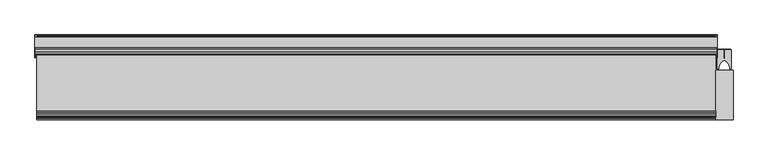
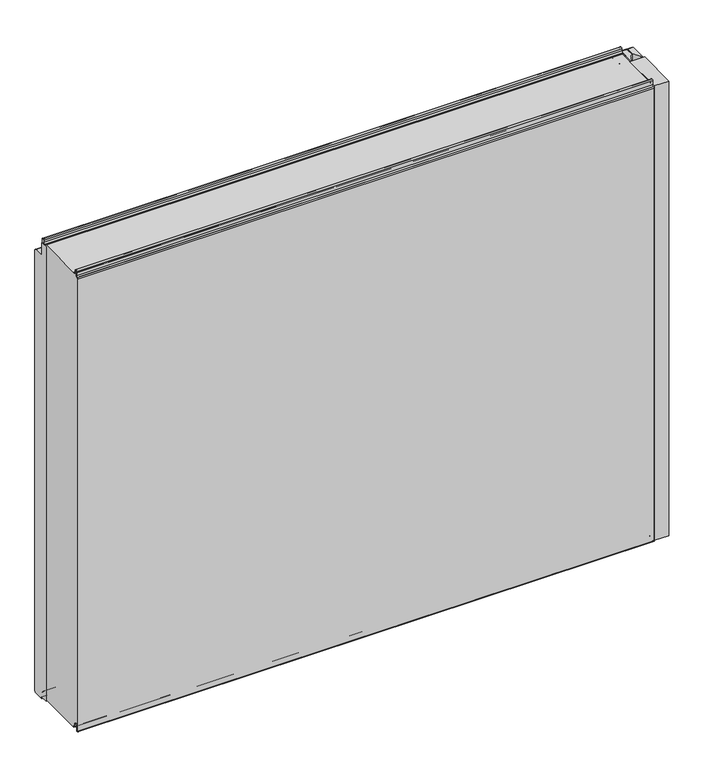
"""IFC4 building model written with IfcOpenShell, lengths in millimetres: plate geometry, Fronttop : Fronttop 150/1000."""

from ifc_helpers import new_model, si_unit, point, frame, frame_2d, origin, origin_with_axes, place, context, project, spatial, polyline, circle_curve, trimmed, segment, composite_curve, outline, extrude, source, transform, mapped, element, save
from ifc_brep_helpers import plane_surface, cylinder_surface, revolved_surface, advanced_brep


def plate_de1b0bd9(model_context):
    return source(origin(), model_context, "Body", "SolidModel", [
        advanced_brep(
        [(-601.5, 124.0, 1008.0), (-601.5, 121.0, 1008.0), (-601.5, 121.0, 1004.0), (-601.5, 117.0, 1000.0), (-601.5, 115.0, 1000.0), (-601.5, 115.0, 1001.0), (-601.5, 117.0, 1001.0), (-601.5, 120.0, 1004.0), (-601.5, 120.0, 1008.0), (-601.5, 125.0, 1008.0), (-601.5, 125.0, 1000.0), (-601.5, 124.0, 1000.0), (601.5, 125.0, 1008.0), (601.5, 120.0, 1008.0), (601.5, 120.0, 1004.0), (601.5, 117.0, 1001.0), (601.5, 115.0, 1001.0), (601.5, 115.0, 1000.0), (601.5, 117.0, 1000.0), (601.5, 121.0, 1004.0), (601.5, 121.0, 1008.0), (601.5, 124.0, 1008.0), (601.5, 124.0, 1000.0), (601.5, 125.0, 1000.0), (-601.5, 117.0, 2.0), (601.5, 117.0, 2.0), (601.5, 115.0, 2.0), (-601.5, 115.0, 2.0), (-601.5, 119.0, 4.0), (601.5, 119.0, 4.0), (-601.5, 119.0, 8.0), (601.5, 119.0, 8.0), (-601.5, 126.0, 8.0), (601.5, 126.0, 8.0), (-601.5, 126.0, 0.0), (601.5, 126.0, 0.0), (-601.5, 129.0, -3.0), (601.5, 129.0, -3.0), (-601.5, 125.0, -3.0), (-602.5, 125.0, -3.0), (-602.5, 147.0, -3.0), (-601.5, 147.0, -3.0), (601.5, 147.0, -3.0), (602.5, 147.0, -3.0), (602.5, 125.0, -3.0), (601.5, 125.0, -3.0), (-601.5, 150.0, 0.0), (601.5, 150.0, 0.0), (-602.5, 150.0, 0.0), (-602.5, 150.0, 969.0), (-601.5, 150.0, 969.0), (601.5, 150.0, 969.0), (602.5, 150.0, 969.0), (602.5, 150.0, 0.0), (-601.5, 147.0, 972.0), (601.5, 147.0, 972.0), (-602.5, 147.0, 972.0), (-602.5, 128.0, 972.0), (-601.5, 128.0, 972.0), (601.5, 128.0, 972.0), (602.5, 128.0, 972.0), (602.5, 147.0, 972.0), (-601.5, 125.0, 975.0), (601.5, 125.0, 975.0), (-602.5, 125.0, 975.0), (-602.5, 125.0, 1000.0), (602.5, 125.0, 1000.0), (602.5, 125.0, 975.0), (-601.5, 124.0, 975.0), (601.5, 124.0, 975.0), (-601.5, 128.0, 971.0), (601.5, 128.0, 971.0), (-601.5, 147.0, 971.0), (601.5, 147.0, 971.0), (-601.5, 149.0, 969.0), (601.5, 149.0, 969.0), (-601.5, 149.0, 0.0), (601.5, 149.0, 0.0), (-601.5, 147.0, -2.0), (601.5, 147.0, -2.0), (-601.5, 129.0, -2.0), (601.5, 129.0, -2.0), (-601.5, 127.0, 0.0), (601.5, 127.0, 0.0), (-601.5, 127.0, 8.0), (601.5, 127.0, 8.0), (-601.5, 118.0, 8.0), (601.5, 118.0, 8.0), (-601.5, 118.0, 4.0), (601.5, 118.0, 4.0), (-601.5, 117.0, 3.0), (601.5, 117.0, 3.0), (-601.5, 115.0, 3.0), (601.5, 115.0, 3.0), (602.5, 110.0, 1000.0), (602.5, 110.0, 0.0), (602.5, 125.0, 0.0), (601.5, 125.0, 0.0), (601.5, 110.0, 0.0), (601.5, 110.0, 1000.0), (-602.5, 125.0, 0.0), (-602.5, 110.0, 0.0), (-602.5, 110.0, 1000.0), (-601.5, 110.0, 1000.0), (-601.5, 110.0, 0.0), (-601.5, 125.0, 0.0)],
        [
            (0, 1, circle_curve(frame((-601.5, 122.5, 1008.0), z_axis=(1.0, 0.0, 0.0), x_axis=(0.0, -1.0, 0.0)), 1.5)),
            (1, 2),
            (2, 3, circle_curve(frame((-601.5, 117.0, 1004.0), z_axis=(-1.0, 0.0, 0.0), x_axis=(0.0, -1.0, 0.0)), 4.0)),
            (3, 4),
            (4, 5),
            (5, 6),
            (6, 7, circle_curve(frame((-601.5, 117.0, 1004.0), z_axis=(1.0, 0.0, 0.0), x_axis=(0.0, -1.0, 0.0)), 3.0)),
            (7, 8),
            (8, 9, circle_curve(frame((-601.5, 122.5, 1008.0), z_axis=(-1.0, 0.0, 0.0), x_axis=(0.0, -1.0, 0.0)), 2.5)),
            (9, 10),
            (10, 11),
            (11, 0),
            (12, 13, circle_curve(frame((601.5, 122.5, 1008.0), z_axis=(1.0, 0.0, 0.0), x_axis=(0.0, -1.0, 0.0)), 2.5)),
            (13, 14),
            (14, 15, circle_curve(frame((601.5, 117.0, 1004.0), z_axis=(-1.0, 0.0, 0.0), x_axis=(0.0, -1.0, 0.0)), 3.0)),
            (15, 16),
            (16, 17),
            (17, 18),
            (18, 19, circle_curve(frame((601.5, 117.0, 1004.0), z_axis=(1.0, 0.0, 0.0), x_axis=(0.0, -1.0, 0.0)), 4.0)),
            (19, 20),
            (20, 21, circle_curve(frame((601.5, 122.5, 1008.0), z_axis=(-1.0, 0.0, 0.0), x_axis=(0.0, -1.0, 0.0)), 1.5)),
            (21, 22),
            (22, 23),
            (23, 12),
            (24, 25),
            (25, 26),
            (26, 27),
            (27, 24),
            (24, 28, circle_curve(frame((-601.5, 117.0, 4.0), z_axis=(1.0, 0.0, 0.0), x_axis=(0.0, -1.0, 0.0)), 2.0)),
            (28, 29),
            (29, 25, circle_curve(frame((601.5, 117.0, 4.0), z_axis=(-1.0, 0.0, 0.0), x_axis=(0.0, -1.0, 0.0)), 2.0)),
            (28, 30),
            (30, 31),
            (31, 29),
            (30, 32, circle_curve(frame((-601.5, 122.5, 8.0), z_axis=(-1.0, 0.0, 0.0), x_axis=(0.0, -1.0, 0.0)), 3.5)),
            (32, 33),
            (33, 31, circle_curve(frame((601.5, 122.5, 8.0), z_axis=(1.0, 0.0, 0.0), x_axis=(0.0, -1.0, 0.0)), 3.5)),
            (32, 34),
            (34, 35),
            (35, 33),
            (34, 36, circle_curve(frame((-601.5, 129.0, 0.0), z_axis=(1.0, 0.0, 0.0), x_axis=(0.0, -1.0, 0.0)), 3.0)),
            (36, 37),
            (37, 35, circle_curve(frame((601.5, 129.0, 0.0), z_axis=(-1.0, 0.0, 0.0), x_axis=(0.0, -1.0, 0.0)), 3.0)),
            (36, 38),
            (38, 39),
            (39, 40),
            (40, 41),
            (41, 42),
            (42, 43),
            (43, 44),
            (44, 45),
            (45, 37),
            (41, 46, circle_curve(frame((-601.5, 147.0, 0.0), z_axis=(1.0, 0.0, 0.0), x_axis=(0.0, -1.0, 0.0)), 3.0)),
            (46, 47),
            (47, 42, circle_curve(frame((601.5, 147.0, 0.0), z_axis=(-1.0, 0.0, 0.0), x_axis=(0.0, -1.0, 0.0)), 3.0)),
            (46, 48),
            (48, 49),
            (49, 50),
            (50, 51),
            (51, 52),
            (52, 53),
            (53, 47),
            (50, 54, circle_curve(frame((-601.5, 147.0, 969.0), z_axis=(1.0, 0.0, 0.0), x_axis=(0.0, -1.0, 0.0)), 3.0)),
            (54, 55),
            (55, 51, circle_curve(frame((601.5, 147.0, 969.0), z_axis=(-1.0, 0.0, 0.0), x_axis=(0.0, -1.0, 0.0)), 3.0)),
            (54, 56),
            (56, 57),
            (57, 58),
            (58, 59),
            (59, 60),
            (60, 61),
            (61, 55),
            (58, 62, circle_curve(frame((-601.5, 128.0, 975.0), z_axis=(-1.0, 0.0, 0.0), x_axis=(0.0, -1.0, 0.0)), 3.0)),
            (62, 63),
            (63, 59, circle_curve(frame((601.5, 128.0, 975.0), z_axis=(1.0, 0.0, 0.0), x_axis=(0.0, -1.0, 0.0)), 3.0)),
            (62, 64),
            (64, 65),
            (65, 10),
            (9, 12),
            (23, 66),
            (66, 67),
            (67, 63),
            (8, 13),
            (7, 14),
            (6, 15),
            (5, 16),
            (4, 17),
            (4, 3),
            (3, 18),
            (18, 17),
            (2, 19),
            (1, 20),
            (0, 21),
            (11, 68),
            (68, 69),
            (69, 22),
            (68, 70, circle_curve(frame((-601.5, 128.0, 975.0), z_axis=(1.0, 0.0, 0.0), x_axis=(0.0, -1.0, 0.0)), 4.0)),
            (70, 71),
            (71, 69, circle_curve(frame((601.5, 128.0, 975.0), z_axis=(-1.0, 0.0, 0.0), x_axis=(0.0, -1.0, 0.0)), 4.0)),
            (70, 72),
            (72, 73),
            (73, 71),
            (72, 74, circle_curve(frame((-601.5, 147.0, 969.0), z_axis=(-1.0, 0.0, 0.0), x_axis=(0.0, -1.0, 0.0)), 2.0)),
            (74, 75),
            (75, 73, circle_curve(frame((601.5, 147.0, 969.0), z_axis=(1.0, 0.0, 0.0), x_axis=(0.0, -1.0, 0.0)), 2.0)),
            (74, 76),
            (76, 77),
            (77, 75),
            (76, 78, circle_curve(frame((-601.5, 147.0, 0.0), z_axis=(-1.0, 0.0, 0.0), x_axis=(0.0, -1.0, 0.0)), 2.0)),
            (78, 79),
            (79, 77, circle_curve(frame((601.5, 147.0, 0.0), z_axis=(1.0, 0.0, 0.0), x_axis=(0.0, -1.0, 0.0)), 2.0)),
            (78, 80),
            (80, 81),
            (81, 79),
            (80, 82, circle_curve(frame((-601.5, 129.0, 0.0), z_axis=(-1.0, 0.0, 0.0), x_axis=(0.0, -1.0, 0.0)), 2.0)),
            (82, 83),
            (83, 81, circle_curve(frame((601.5, 129.0, 0.0), z_axis=(1.0, 0.0, 0.0), x_axis=(0.0, -1.0, 0.0)), 2.0)),
            (82, 84),
            (84, 85),
            (85, 83),
            (84, 86, circle_curve(frame((-601.5, 122.5, 8.0), z_axis=(1.0, 0.0, 0.0), x_axis=(0.0, -1.0, 0.0)), 4.5)),
            (86, 87),
            (87, 85, circle_curve(frame((601.5, 122.5, 8.0), z_axis=(-1.0, 0.0, 0.0), x_axis=(0.0, -1.0, 0.0)), 4.5)),
            (86, 88),
            (88, 89),
            (89, 87),
            (88, 90, circle_curve(frame((-601.5, 117.0, 4.0), z_axis=(-1.0, 0.0, 0.0), x_axis=(0.0, -1.0, 0.0)), 1.0)),
            (90, 91),
            (91, 89, circle_curve(frame((601.5, 117.0, 4.0), z_axis=(1.0, 0.0, 0.0), x_axis=(0.0, -1.0, 0.0)), 1.0)),
            (90, 92),
            (92, 93),
            (93, 91),
            (26, 93),
            (92, 27),
            (66, 94),
            (94, 95),
            (95, 96),
            (96, 44),
            (43, 53, circle_curve(frame((602.5, 147.0, 0.0), z_axis=(1.0, 0.0, 0.0), x_axis=(0.0, 1.0, 0.0)), 3.0)),
            (52, 61, circle_curve(frame((602.5, 147.0, 969.0), z_axis=(1.0, 0.0, 0.0), x_axis=(0.0, 1.0, 0.0)), 3.0)),
            (60, 67, circle_curve(frame((602.5, 128.0, 975.0), z_axis=(-1.0, 0.0, 0.0), x_axis=(0.0, 1.0, 0.0)), 3.0)),
            (45, 97),
            (97, 98),
            (98, 99),
            (99, 17),
            (18, 22),
            (99, 94),
            (98, 95),
            (97, 96),
            (64, 57, circle_curve(frame((-602.5, 128.0, 975.0), z_axis=(1.0, 0.0, 0.0), x_axis=(0.0, 1.0, 0.0)), 3.0)),
            (56, 49, circle_curve(frame((-602.5, 147.0, 969.0), z_axis=(-1.0, 0.0, 0.0), x_axis=(0.0, 1.0, 0.0)), 3.0)),
            (48, 40, circle_curve(frame((-602.5, 147.0, 0.0), z_axis=(-1.0, 0.0, 0.0), x_axis=(0.0, 1.0, 0.0)), 3.0)),
            (39, 100),
            (100, 101),
            (101, 102),
            (102, 65),
            (103, 104),
            (104, 105),
            (105, 38),
            (11, 3),
            (4, 103),
            (102, 103),
            (101, 104),
            (100, 105),
        ],
        [
            plane_surface(frame((-601.5, 0.0, 0.0), z_axis=(-1.0, 0.0, 0.0), x_axis=(0.0, 0.0, 1.0))),
            plane_surface(frame((601.5, 0.0, 0.0), z_axis=(1.0, 0.0, 0.0), x_axis=(0.0, 0.0, 1.0))),
            plane_surface(frame((-601.5, 117.0, 2.0), z_axis=(0.0, 0.0, -1.0), x_axis=(1.0, 0.0, 0.0))),
            cylinder_surface(frame((-601.5, 117.0, 4.0), z_axis=(-1.0, 0.0, 0.0), x_axis=(0.0, -1.0, 0.0)), 2.0),
            plane_surface(frame((-601.5, 119.0, 8.0), z_axis=(0.0, 1.0, 0.0), x_axis=(1.0, 0.0, 0.0))),
            revolved_surface(polyline([(601.5, 119.0, 8.0), (-601.5, 119.0, 8.0)]), (-601.5, 122.5, 8.0), (1.0, 0.0, 0.0)),
            plane_surface(frame((-601.5, 126.0, 0.0), z_axis=(0.0, -1.0, 0.0), x_axis=(1.0, 0.0, 0.0))),
            cylinder_surface(frame((-601.5, 129.0, 0.0), z_axis=(-1.0, 0.0, 0.0), x_axis=(0.0, -1.0, 0.0)), 3.0),
            plane_surface(frame((-601.5, 147.0, -3.0), z_axis=(0.0, 0.0, -1.0), x_axis=(1.0, 0.0, 0.0))),
            cylinder_surface(frame((-601.5, 147.0, 0.0), z_axis=(-1.0, 0.0, 0.0), x_axis=(0.0, -1.0, 0.0)), 3.0),
            plane_surface(frame((-601.5, 150.0, 969.0), z_axis=(0.0, 1.0, 0.0), x_axis=(1.0, 0.0, 0.0))),
            cylinder_surface(frame((-601.5, 147.0, 969.0), z_axis=(-1.0, 0.0, 0.0), x_axis=(0.0, -1.0, 0.0)), 3.0),
            plane_surface(frame((-601.5, 128.0, 972.0), z_axis=(0.0, 0.0, 1.0), x_axis=(1.0, 0.0, 0.0))),
            revolved_surface(polyline([(601.5, 125.0, 975.0), (-601.5, 125.0, 975.0)]), (-601.5, 128.0, 975.0), (1.0, 0.0, 0.0)),
            plane_surface(frame((-601.5, 125.0, 1008.0), z_axis=(0.0, 1.0, 0.0), x_axis=(1.0, 0.0, 0.0))),
            cylinder_surface(frame((-601.5, 122.5, 1008.0), z_axis=(-1.0, 0.0, 0.0), x_axis=(0.0, -1.0, 0.0)), 2.5),
            plane_surface(frame((-601.5, 120.0, 1004.0), z_axis=(0.0, -1.0, 0.0), x_axis=(1.0, 0.0, 0.0))),
            revolved_surface(polyline([(601.5, 114.0, 1004.0), (-601.5, 114.0, 1004.0)]), (-601.5, 117.0, 1004.0), (1.0, 0.0, 0.0)),
            plane_surface(frame((-601.5, 115.0, 1001.0), z_axis=(0.0, 0.0, 1.0), x_axis=(1.0, 0.0, 0.0))),
            plane_surface(frame((-601.5, 115.0, 1000.0), z_axis=(0.0, -1.0, 0.0), x_axis=(1.0, 0.0, 0.0))),
            plane_surface(frame((-601.5, 117.0, 1000.0), z_axis=(0.0, 0.0, -1.0), x_axis=(1.0, 0.0, 0.0))),
            cylinder_surface(frame((-601.5, 117.0, 1004.0), z_axis=(-1.0, 0.0, 0.0), x_axis=(0.0, -1.0, 0.0)), 4.0),
            plane_surface(frame((-601.5, 121.0, 1008.0), z_axis=(0.0, 1.0, 0.0), x_axis=(1.0, 0.0, 0.0))),
            revolved_surface(polyline([(601.5, 121.0, 1008.0), (-601.5, 121.0, 1008.0)]), (-601.5, 122.5, 1008.0), (1.0, 0.0, 0.0)),
            plane_surface(frame((-601.5, 124.0, 975.0), z_axis=(0.0, -1.0, 0.0), x_axis=(1.0, 0.0, 0.0))),
            cylinder_surface(frame((-601.5, 128.0, 975.0), z_axis=(-1.0, 0.0, 0.0), x_axis=(0.0, -1.0, 0.0)), 4.0),
            plane_surface(frame((-601.5, 147.0, 971.0), z_axis=(0.0, 0.0, -1.0), x_axis=(1.0, 0.0, 0.0))),
            revolved_surface(polyline([(601.5, 145.0, 969.0), (-601.5, 145.0, 969.0)]), (-601.5, 147.0, 969.0), (1.0, 0.0, 0.0)),
            plane_surface(frame((-601.5, 149.0, 0.0), z_axis=(0.0, -1.0, 0.0), x_axis=(1.0, 0.0, 0.0))),
            revolved_surface(polyline([(601.5, 145.0, 0.0), (-601.5, 145.0, 0.0)]), (-601.5, 147.0, 0.0), (1.0, 0.0, 0.0)),
            plane_surface(frame((-601.5, 129.0, -2.0), z_axis=(0.0, 0.0, 1.0), x_axis=(1.0, 0.0, 0.0))),
            revolved_surface(polyline([(601.5, 127.0, 0.0), (-601.5, 127.0, 0.0)]), (-601.5, 129.0, 0.0), (1.0, 0.0, 0.0)),
            plane_surface(frame((-601.5, 127.0, 8.0), z_axis=(0.0, 1.0, 0.0), x_axis=(1.0, 0.0, 0.0))),
            cylinder_surface(frame((-601.5, 122.5, 8.0), z_axis=(-1.0, 0.0, 0.0), x_axis=(0.0, -1.0, 0.0)), 4.5),
            plane_surface(frame((-601.5, 118.0, 4.0), z_axis=(0.0, -1.0, 0.0), x_axis=(1.0, 0.0, 0.0))),
            revolved_surface(polyline([(601.5, 116.0, 4.0), (-601.5, 116.0, 4.0)]), (-601.5, 117.0, 4.0), (1.0, 0.0, 0.0)),
            plane_surface(frame((-601.5, 115.0, 3.0), z_axis=(0.0, 0.0, 1.0), x_axis=(1.0, 0.0, 0.0))),
            plane_surface(frame((-601.5, 115.0, 2.0), z_axis=(0.0, -1.0, 0.0), x_axis=(1.0, 0.0, 0.0))),
            plane_surface(frame((602.5, 125.0, 1000.0), z_axis=(1.0, 0.0, 0.0), x_axis=(0.0, -1.0, 0.0))),
            plane_surface(frame((601.5, 125.0, 1000.0), z_axis=(-1.0, 0.0, 0.0), x_axis=(0.0, 1.0, 0.0))),
            plane_surface(frame((602.5, 125.0, 1000.0), z_axis=(0.0, 0.0, 1.0), x_axis=(-1.0, 0.0, 0.0))),
            plane_surface(frame((602.5, 110.0, 1000.0), z_axis=(0.0, -1.0, 0.0), x_axis=(-1.0, 0.0, 0.0))),
            plane_surface(frame((602.5, 110.0, 0.0), z_axis=(0.0, 0.0, -1.0), x_axis=(-1.0, 0.0, 0.0))),
            cylinder_surface(frame((601.5, 147.0, 0.0), z_axis=(1.0, 0.0, 0.0), x_axis=(0.0, 1.0, 0.0)), 3.0),
            cylinder_surface(frame((601.5, 147.0, 969.0), z_axis=(1.0, 0.0, 0.0), x_axis=(0.0, 1.0, 0.0)), 3.0),
            revolved_surface(polyline([(601.5, 131.0, 975.0), (602.5, 131.0, 975.0)]), (601.5, 128.0, 975.0), (-1.0, 0.0, 0.0)),
            plane_surface(frame((-602.5, 125.0, 1000.0), z_axis=(-1.0, 0.0, 0.0), x_axis=(0.0, 1.0, 0.0))),
            plane_surface(frame((-601.5, 125.0, 1000.0), z_axis=(1.0, 0.0, 0.0), x_axis=(0.0, -1.0, 0.0))),
            plane_surface(frame((-601.5, 125.0, 1000.0), z_axis=(0.0, 0.0, 1.0), x_axis=(-1.0, 0.0, 0.0))),
            plane_surface(frame((-601.5, 110.0, 1000.0), z_axis=(0.0, -1.0, 0.0), x_axis=(-1.0, 0.0, 0.0))),
            plane_surface(frame((-601.5, 110.0, 0.0), z_axis=(0.0, 0.0, -1.0), x_axis=(-1.0, 0.0, 0.0))),
            cylinder_surface(frame((-602.5, 147.0, 0.0), z_axis=(1.0, 0.0, 0.0), x_axis=(0.0, 1.0, 0.0)), 3.0),
            cylinder_surface(frame((-602.5, 147.0, 969.0), z_axis=(1.0, 0.0, 0.0), x_axis=(0.0, 1.0, 0.0)), 3.0),
            revolved_surface(polyline([(-602.5, 131.0, 975.0), (-601.5, 131.0, 975.0)]), (-602.5, 128.0, 975.0), (-1.0, 0.0, 0.0)),
            plane_surface(frame((602.5, 125.0, 0.0), z_axis=(0.0, -1.0, 0.0), x_axis=(-1.0, 0.0, 0.0))),
            plane_surface(frame((-601.5, 125.0, 0.0), z_axis=(0.0, -1.0, 0.0), x_axis=(-1.0, 0.0, 0.0))),
        ],
        [
            (0, [[1, 2, 3, 4, 5, 6, 7, 8, 9, 10, 11, 12]]),
            (1, [[13, 14, 15, 16, 17, 18, 19, 20, 21, 22, 23, 24]]),
            (2, [[25, 26, 27, 28]]),
            (3, [[-25, 29, 30, 31]]),
            (4, [[-30, 32, 33, 34]]),
            (5, [[-33, 35, 36, 37]]),
            (6, [[-36, 38, 39, 40]]),
            (7, [[-39, 41, 42, 43]]),
            (8, [[-42, 44, 45, 46, 47, 48, 49, 50, 51, 52]]),
            (9, [[-48, 53, 54, 55]]),
            (10, [[-54, 56, 57, 58, 59, 60, 61, 62]]),
            (11, [[-59, 63, 64, 65]]),
            (12, [[-64, 66, 67, 68, 69, 70, 71, 72]]),
            (13, [[-69, 73, 74, 75]]),
            (14, [[-74, 76, 77, 78, -10, 79, -24, 80, 81, 82]]),
            (15, [[-9, 83, -13, -79]]),
            (16, [[-8, 84, -14, -83]]),
            (17, [[-7, 85, -15, -84]]),
            (18, [[-6, 86, -16, -85]]),
            (19, [[-5, 87, -17, -86]]),
            (20, [[-87, 88, 89, 90]]),
            (21, [[-3, 91, -19, -89]]),
            (22, [[-2, 92, -20, -91]]),
            (23, [[-1, 93, -21, -92]]),
            (24, [[-93, -12, 94, 95, 96, -22]]),
            (25, [[-95, 97, 98, 99]]),
            (26, [[-98, 100, 101, 102]]),
            (27, [[-101, 103, 104, 105]]),
            (28, [[-104, 106, 107, 108]]),
            (29, [[-107, 109, 110, 111]]),
            (30, [[-110, 112, 113, 114]]),
            (31, [[-113, 115, 116, 117]]),
            (32, [[-116, 118, 119, 120]]),
            (33, [[-119, 121, 122, 123]]),
            (34, [[-122, 124, 125, 126]]),
            (35, [[-125, 127, 128, 129]]),
            (36, [[-128, 130, 131, 132]]),
            (37, [[-27, 133, -131, 134]]),
            (38, [[135, 136, 137, 138, -50, 139, -61, 140, -71, 141, -81]]),
            (39, [[142, 143, 144, 145, -90, 146, -96, -99, -102, -105, -108, -111, -114, -117, -120, -123, -126, -129, -132, -133, -26, -31, -34, -37, -40, -43, -52]]),
            (40, [[-135, -80, -23, -146, -18, -145, 147]]),
            (41, [[-136, -147, -144, 148]]),
            (42, [[-137, -148, -143, 149]]),
            (43, [[-139, -49, -55, -62]]),
            (44, [[-140, -60, -65, -72]]),
            (45, [[-141, -70, -75, -82]]),
            (46, [[-77, 150, -67, 151, -57, 152, -46, 153, 154, 155, 156]]),
            (47, [[157, 158, 159, -44, -41, -38, -35, -32, -29, -28, -134, -130, -127, -124, -121, -118, -115, -112, -109, -106, -103, -100, -97, -94, 160, -88, 161]]),
            (48, [[-156, 162, -161, -4, -160, -11, -78]]),
            (49, [[-155, 163, -157, -162]]),
            (50, [[-154, 164, -158, -163]]),
            (51, [[-152, -56, -53, -47]]),
            (52, [[-151, -66, -63, -58]]),
            (53, [[-150, -76, -73, -68]]),
            (54, [[-138, -149, -142, -51]]),
            (55, [[-153, -45, -159, -164]]),
        ],
    ),
        extrude(outline(composite_curve([segment(polyline([(602.4998455, 123.5), (614.25, 123.5), (614.25, 107.5), (615.75, 107.5), (615.75, 123.5), (627.5001545, 123.5), (627.5001545, 90.0), (624.75, 90.0), (624.75, 92.5)]), True, "CONTINUOUS"), segment(trimmed(circle_curve(frame_2d((606.9661979, 89.3183984)), 18.0661619), [point((624.75, 92.5))], [point((615.0, 105.5))], True, "CARTESIAN"), True, "CONTINUOUS"), segment(trimmed(circle_curve(frame_2d((623.0338021, 89.3183984)), 18.0661619), [point((615.0, 105.5))], [point((605.25, 92.5))], True, "CARTESIAN"), True, "CONTINUOUS"), segment(polyline([(605.25, 92.5), (605.25, 90.0), (602.4998455, 90.0), (602.4998455, 123.5)]), True, "CONTINUOUS")], self_intersect=False)), origin_with_axes(), (0.0, 0.0, 1.0), 1000.0),
        extrude(outline(polyline([(630.5, 0.0), (599.5, 0.0), (599.5, 88.0), (630.5, 88.0), (630.5, 0.0)])), origin_with_axes(), (0.0, 0.0, 1.0), 1000.0),
        extrude(outline(polyline([(603.4948846, 125.0), (626.5051154, 125.0), (626.5051154, 123.5), (615.6502496, 123.5), (615.6502496, 109.0759655), (614.35, 109.0759655), (614.35, 123.5), (603.4948846, 123.5), (603.4948846, 125.0)])), origin_with_axes(), (0.0, 0.0, 1.0), 1000.0),
        advanced_brep(
        [(-599.5, 13.0, 1001.0), (-599.5, 15.0, 1001.0), (-599.5, 15.0, 1000.0), (-599.5, 13.0, 1000.0), (-599.5, 9.0, 1004.0), (-599.5, 9.0, 1008.0), (-599.5, 6.0, 1008.0), (-599.5, 6.0, 999.5), (-599.5, 2.1134897, 996.0214069), (-599.5, 1.0, 995.0), (-599.5, 1.0, -0.5), (-599.5, 3.0, -0.5), (-599.5, 3.0, 8.0), (-599.5, 12.0, 8.0), (-599.5, 12.0, 4.0), (-599.5, 13.0, 3.0), (-599.5, 15.0, 3.0), (-599.5, 15.0, 2.0), (-599.5, 13.0, 2.0), (-599.5, 11.0, 4.0), (-599.5, 11.0, 8.0), (-599.5, 4.0, 8.0), (-599.5, 4.0, -0.5), (-599.5, 0.0, -0.5), (-599.5, 0.0, 995.0), (-599.5, 2.220863, 996.9877675), (-599.5, 5.0, 999.5), (-599.5, 5.0, 1008.0), (-599.5, 10.0, 1008.0), (-599.5, 10.0, 1004.0), (599.5, 13.0, 1001.0), (599.5, 10.0, 1004.0), (599.5, 10.0, 1008.0), (599.5, 5.0, 1008.0), (599.5, 5.0, 999.5), (599.5, 2.2239212, 997.0152907), (599.5, 0.0, 995.0), (599.5, 0.0, -0.5), (599.5, 4.0, -0.5), (599.5, 4.0, 8.0), (599.5, 11.0, 8.0), (599.5, 11.0, 4.0), (599.5, 13.0, 2.0), (599.5, 15.0, 2.0), (599.5, 15.0, 3.0), (599.5, 13.0, 3.0), (599.5, 12.0, 4.0), (599.5, 12.0, 8.0), (599.5, 3.0, 8.0), (599.5, 3.0, -0.5), (599.5, 1.0, -0.5), (599.5, 1.0, 995.0), (599.5, 2.1104315, 995.9938837), (599.5, 6.0, 999.5), (599.5, 6.0, 1008.0), (599.5, 9.0, 1008.0), (599.5, 9.0, 1004.0), (599.5, 13.0, 1000.0), (599.5, 15.0, 1000.0), (599.5, 15.0, 1001.0)],
        [
            (0, 1),
            (1, 2),
            (2, 3),
            (3, 4, circle_curve(frame((-599.5, 13.0, 1004.0), z_axis=(-1.0, 0.0, 0.0), x_axis=(0.0, -1.0, 0.0)), 4.0)),
            (4, 5),
            (5, 6, circle_curve(frame((-599.5, 7.5, 1008.0), z_axis=(1.0, 0.0, 0.0), x_axis=(0.0, -1.0, 0.0)), 1.5)),
            (6, 7),
            (7, 8, circle_curve(frame((-599.5, 2.5, 999.5), z_axis=(-1.0, 0.0, 0.0), x_axis=(0.0, -1.0, 0.0)), 3.5)),
            (8, 9, circle_curve(frame((-599.5, 2.0, 995.0), z_axis=(1.0, 0.0, 0.0), x_axis=(0.0, -1.0, 0.0)), 1.0)),
            (9, 10),
            (10, 11, circle_curve(frame((-599.5, 2.0, -0.5), z_axis=(1.0, 0.0, 0.0), x_axis=(0.0, -1.0, 0.0)), 1.0)),
            (11, 12),
            (12, 13, circle_curve(frame((-599.5, 7.5, 8.0), z_axis=(-1.0, 0.0, 0.0), x_axis=(0.0, -1.0, 0.0)), 4.5)),
            (13, 14),
            (14, 15, circle_curve(frame((-599.5, 13.0, 4.0), z_axis=(1.0, 0.0, 0.0), x_axis=(0.0, -1.0, 0.0)), 1.0)),
            (15, 16),
            (16, 17),
            (17, 18),
            (18, 19, circle_curve(frame((-599.5, 13.0, 4.0), z_axis=(-1.0, 0.0, 0.0), x_axis=(0.0, -1.0, 0.0)), 2.0)),
            (19, 20),
            (20, 21, circle_curve(frame((-599.5, 7.5, 8.0), z_axis=(1.0, 0.0, 0.0), x_axis=(0.0, -1.0, 0.0)), 3.5)),
            (21, 22),
            (22, 23, circle_curve(frame((-599.5, 2.0, -0.5), z_axis=(-1.0, 0.0, 0.0), x_axis=(0.0, -1.0, 0.0)), 2.0)),
            (23, 24),
            (24, 25, circle_curve(frame((-599.5, 2.0, 995.0), z_axis=(-1.0, 0.0, 0.0), x_axis=(0.0, -1.0, 0.0)), 2.0)),
            (25, 26, circle_curve(frame((-599.5, 2.5, 999.5), z_axis=(1.0, 0.0, 0.0), x_axis=(0.0, -1.0, 0.0)), 2.5)),
            (26, 27),
            (27, 28, circle_curve(frame((-599.5, 7.5, 1008.0), z_axis=(-1.0, 0.0, 0.0), x_axis=(0.0, -1.0, 0.0)), 2.5)),
            (28, 29),
            (29, 0, circle_curve(frame((-599.5, 13.0, 1004.0), z_axis=(1.0, 0.0, 0.0), x_axis=(0.0, -1.0, 0.0)), 3.0)),
            (30, 31, circle_curve(frame((599.5, 13.0, 1004.0), z_axis=(-1.0, 0.0, 0.0), x_axis=(0.0, -1.0, 0.0)), 3.0)),
            (31, 32),
            (32, 33, circle_curve(frame((599.5, 7.5, 1008.0), z_axis=(1.0, 0.0, 0.0), x_axis=(0.0, -1.0, 0.0)), 2.5)),
            (33, 34),
            (34, 35, circle_curve(frame((599.5, 2.5, 999.5), z_axis=(-1.0, 0.0, 0.0), x_axis=(0.0, -1.0, 0.0)), 2.5)),
            (35, 36, circle_curve(frame((599.5, 2.0, 995.0), z_axis=(1.0, 0.0, 0.0), x_axis=(0.0, -1.0, 0.0)), 2.0)),
            (36, 37),
            (37, 38, circle_curve(frame((599.5, 2.0, -0.5), z_axis=(1.0, 0.0, 0.0), x_axis=(0.0, -1.0, 0.0)), 2.0)),
            (38, 39),
            (39, 40, circle_curve(frame((599.5, 7.5, 8.0), z_axis=(-1.0, 0.0, 0.0), x_axis=(0.0, -1.0, 0.0)), 3.5)),
            (40, 41),
            (41, 42, circle_curve(frame((599.5, 13.0, 4.0), z_axis=(1.0, 0.0, 0.0), x_axis=(0.0, -1.0, 0.0)), 2.0)),
            (42, 43),
            (43, 44),
            (44, 45),
            (45, 46, circle_curve(frame((599.5, 13.0, 4.0), z_axis=(-1.0, 0.0, 0.0), x_axis=(0.0, -1.0, 0.0)), 1.0)),
            (46, 47),
            (47, 48, circle_curve(frame((599.5, 7.5, 8.0), z_axis=(1.0, 0.0, 0.0), x_axis=(0.0, -1.0, 0.0)), 4.5)),
            (48, 49),
            (49, 50, circle_curve(frame((599.5, 2.0, -0.5), z_axis=(-1.0, 0.0, 0.0), x_axis=(0.0, -1.0, 0.0)), 1.0)),
            (50, 51),
            (51, 52, circle_curve(frame((599.5, 2.0, 995.0), z_axis=(-1.0, 0.0, 0.0), x_axis=(0.0, -1.0, 0.0)), 1.0)),
            (52, 53, circle_curve(frame((599.5, 2.5, 999.5), z_axis=(1.0, 0.0, 0.0), x_axis=(0.0, -1.0, 0.0)), 3.5)),
            (53, 54),
            (54, 55, circle_curve(frame((599.5, 7.5, 1008.0), z_axis=(-1.0, 0.0, 0.0), x_axis=(0.0, -1.0, 0.0)), 1.5)),
            (55, 56),
            (56, 57, circle_curve(frame((599.5, 13.0, 1004.0), z_axis=(1.0, 0.0, 0.0), x_axis=(0.0, -1.0, 0.0)), 4.0)),
            (57, 58),
            (58, 59),
            (59, 30),
            (0, 30),
            (59, 1),
            (58, 2),
            (57, 3),
            (56, 4),
            (55, 5),
            (54, 6),
            (53, 7),
            (52, 8),
            (51, 9),
            (50, 10),
            (49, 11),
            (48, 12),
            (47, 13),
            (46, 14),
            (45, 15),
            (44, 16),
            (43, 17),
            (42, 18),
            (41, 19),
            (40, 20),
            (39, 21),
            (38, 22),
            (37, 23),
            (36, 24),
            (35, 25),
            (34, 26),
            (33, 27),
            (32, 28),
            (31, 29),
        ],
        [
            plane_surface(frame((-599.5, 0.0, 0.0), z_axis=(-1.0, 0.0, 0.0), x_axis=(0.0, 0.0, 1.0))),
            plane_surface(frame((599.5, 0.0, 0.0), z_axis=(1.0, 0.0, 0.0), x_axis=(0.0, 0.0, 1.0))),
            plane_surface(frame((-599.5, 13.0, 1001.0), z_axis=(0.0, 0.0, 1.0), x_axis=(1.0, 0.0, 0.0))),
            plane_surface(frame((-599.5, 15.0, 1001.0), z_axis=(0.0, 1.0, 0.0), x_axis=(1.0, 0.0, 0.0))),
            plane_surface(frame((-599.5, 15.0, 1000.0), z_axis=(0.0, 0.0, -1.0), x_axis=(1.0, 0.0, 0.0))),
            cylinder_surface(frame((-599.5, 13.0, 1004.0), z_axis=(-1.0, 0.0, 0.0), x_axis=(0.0, -1.0, 0.0)), 4.0),
            plane_surface(frame((-599.5, 9.0, 1004.0), z_axis=(0.0, -1.0, 0.0), x_axis=(1.0, 0.0, 0.0))),
            revolved_surface(polyline([(599.5, 6.0, 1008.0), (-599.5, 6.0, 1008.0)]), (-599.5, 7.5, 1008.0), (1.0, 0.0, 0.0)),
            plane_surface(frame((-599.5, 6.0, 1008.0), z_axis=(0.0, 1.0, 0.0), x_axis=(1.0, 0.0, 0.0))),
            cylinder_surface(frame((-599.5, 2.5, 999.5), z_axis=(-1.0, 0.0, 0.0), x_axis=(0.0, -1.0, 0.0)), 3.5),
            revolved_surface(polyline([(599.5, 1.0, 995.0), (-599.5, 1.0, 995.0)]), (-599.5, 2.0, 995.0), (1.0, 0.0, 0.0)),
            plane_surface(frame((-599.5, 1.0, 995.0), z_axis=(0.0, 1.0, 0.0), x_axis=(1.0, 0.0, 0.0))),
            revolved_surface(polyline([(599.5, 1.0, -0.5), (-599.5, 1.0, -0.5)]), (-599.5, 2.0, -0.5), (1.0, 0.0, 0.0)),
            plane_surface(frame((-599.5, 3.0, -0.5), z_axis=(0.0, -1.0, 0.0), x_axis=(1.0, 0.0, 0.0))),
            cylinder_surface(frame((-599.5, 7.5, 8.0), z_axis=(-1.0, 0.0, 0.0), x_axis=(0.0, -1.0, 0.0)), 4.5),
            plane_surface(frame((-599.5, 12.0, 8.0), z_axis=(0.0, 1.0, 0.0), x_axis=(1.0, 0.0, 0.0))),
            revolved_surface(polyline([(599.5, 12.0, 4.0), (-599.5, 12.0, 4.0)]), (-599.5, 13.0, 4.0), (1.0, 0.0, 0.0)),
            plane_surface(frame((-599.5, 13.0, 3.0), z_axis=(0.0, 0.0, 1.0), x_axis=(1.0, 0.0, 0.0))),
            plane_surface(frame((-599.5, 15.0, 3.0), z_axis=(0.0, 1.0, 0.0), x_axis=(1.0, 0.0, 0.0))),
            plane_surface(frame((-599.5, 15.0, 2.0), z_axis=(0.0, 0.0, -1.0), x_axis=(1.0, 0.0, 0.0))),
            cylinder_surface(frame((-599.5, 13.0, 4.0), z_axis=(-1.0, 0.0, 0.0), x_axis=(0.0, -1.0, 0.0)), 2.0),
            plane_surface(frame((-599.5, 11.0, 4.0), z_axis=(0.0, -1.0, 0.0), x_axis=(1.0, 0.0, 0.0))),
            revolved_surface(polyline([(599.5, 4.0, 8.0), (-599.5, 4.0, 8.0)]), (-599.5, 7.5, 8.0), (1.0, 0.0, 0.0)),
            plane_surface(frame((-599.5, 4.0, 8.0), z_axis=(0.0, 1.0, 0.0), x_axis=(1.0, 0.0, 0.0))),
            cylinder_surface(frame((-599.5, 2.0, -0.5), z_axis=(-1.0, 0.0, 0.0), x_axis=(0.0, -1.0, 0.0)), 2.0),
            plane_surface(frame((-599.5, 0.0, -0.5), z_axis=(0.0, -1.0, 0.0), x_axis=(1.0, 0.0, 0.0))),
            cylinder_surface(frame((-599.5, 2.0, 995.0), z_axis=(-1.0, 0.0, 0.0), x_axis=(0.0, -1.0, 0.0)), 2.0),
            revolved_surface(polyline([(599.5, 0.0, 999.5), (-599.5, 0.0, 999.5)]), (-599.5, 2.5, 999.5), (1.0, 0.0, 0.0)),
            plane_surface(frame((-599.5, 5.0, 999.5), z_axis=(0.0, -1.0, 0.0), x_axis=(1.0, 0.0, 0.0))),
            cylinder_surface(frame((-599.5, 7.5, 1008.0), z_axis=(-1.0, 0.0, 0.0), x_axis=(0.0, -1.0, 0.0)), 2.5),
            plane_surface(frame((-599.5, 10.0, 1008.0), z_axis=(0.0, 1.0, 0.0), x_axis=(1.0, 0.0, 0.0))),
            revolved_surface(polyline([(599.5, 10.0, 1004.0), (-599.5, 10.0, 1004.0)]), (-599.5, 13.0, 1004.0), (1.0, 0.0, 0.0)),
        ],
        [
            (0, [[1, 2, 3, 4, 5, 6, 7, 8, 9, 10, 11, 12, 13, 14, 15, 16, 17, 18, 19, 20, 21, 22, 23, 24, 25, 26, 27, 28, 29, 30]]),
            (1, [[31, 32, 33, 34, 35, 36, 37, 38, 39, 40, 41, 42, 43, 44, 45, 46, 47, 48, 49, 50, 51, 52, 53, 54, 55, 56, 57, 58, 59, 60]]),
            (2, [[-1, 61, -60, 62]]),
            (3, [[-2, -62, -59, 63]]),
            (4, [[-3, -63, -58, 64]]),
            (5, [[-4, -64, -57, 65]]),
            (6, [[-5, -65, -56, 66]]),
            (7, [[-6, -66, -55, 67]]),
            (8, [[-7, -67, -54, 68]]),
            (9, [[-8, -68, -53, 69]]),
            (10, [[-9, -69, -52, 70]]),
            (11, [[-10, -70, -51, 71]]),
            (12, [[-11, -71, -50, 72]]),
            (13, [[-12, -72, -49, 73]]),
            (14, [[-13, -73, -48, 74]]),
            (15, [[-14, -74, -47, 75]]),
            (16, [[-15, -75, -46, 76]]),
            (17, [[-16, -76, -45, 77]]),
            (18, [[-17, -77, -44, 78]]),
            (19, [[-18, -78, -43, 79]]),
            (20, [[-19, -79, -42, 80]]),
            (21, [[-20, -80, -41, 81]]),
            (22, [[-21, -81, -40, 82]]),
            (23, [[-22, -82, -39, 83]]),
            (24, [[-23, -83, -38, 84]]),
            (25, [[-24, -84, -37, 85]]),
            (26, [[-25, -85, -36, 86]]),
            (27, [[-26, -86, -35, 87]]),
            (28, [[-27, -87, -34, 88]]),
            (29, [[-28, -88, -33, 89]]),
            (30, [[-29, -89, -32, 90]]),
            (31, [[-30, -90, -31, -61]]),
        ],
    ),
        extrude(outline(composite_curve([segment(polyline([(15.0, 3.0), (13.0, 3.0)]), True, "CONTINUOUS"), segment(trimmed(circle_curve(frame_2d((13.0, 4.0)), 1.0), [point((13.0, 3.0))], [point((12.0, 4.0))], False, "CARTESIAN"), True, "CONTINUOUS"), segment(polyline([(12.0, 4.0), (12.0, 8.0)]), True, "CONTINUOUS"), segment(trimmed(circle_curve(frame_2d((7.5, 8.0)), 4.5), [point((12.0, 8.0))], [point((3.0, 8.0))], True, "CARTESIAN"), True, "CONTINUOUS"), segment(polyline([(3.0, 8.0), (3.0, -0.5)]), True, "CONTINUOUS"), segment(trimmed(circle_curve(frame_2d((2.0, -0.5)), 1.0), [point((3.0, -0.5))], [point((1.0, -0.5))], False, "CARTESIAN"), True, "CONTINUOUS"), segment(polyline([(1.0, -0.5), (1.0, 995.0278643)]), True, "CONTINUOUS"), segment(trimmed(circle_curve(frame_2d((2.0, 995.0278643)), 1.0), [point((1.0, 995.0278643))], [point((2.1111111, 996.0216723))], False, "CARTESIAN"), True, "CONTINUOUS"), segment(trimmed(circle_curve(frame_2d((2.5, 999.5)), 3.5), [point((2.1111111, 996.0216723))], [point((6.0, 999.5))], True, "CARTESIAN"), True, "CONTINUOUS"), segment(polyline([(6.0, 999.5), (6.0, 1008.0)]), True, "CONTINUOUS"), segment(trimmed(circle_curve(frame_2d((7.5, 1008.0)), 1.5), [point((6.0, 1008.0))], [point((9.0, 1008.0))], False, "CARTESIAN"), True, "CONTINUOUS"), segment(polyline([(9.0, 1008.0), (9.0, 1004.0)]), True, "CONTINUOUS"), segment(trimmed(circle_curve(frame_2d((13.0, 1004.0)), 4.0), [point((9.0, 1004.0))], [point((13.0, 1000.0))], True, "CARTESIAN"), True, "CONTINUOUS"), segment(polyline([(13.0, 1000.0), (117.0, 1000.0)]), True, "CONTINUOUS"), segment(trimmed(circle_curve(frame_2d((117.0, 1004.0)), 4.0), [point((117.0, 1000.0))], [point((121.0, 1004.0))], True, "CARTESIAN"), True, "CONTINUOUS"), segment(polyline([(121.0, 1004.0), (121.0, 1008.0)]), True, "CONTINUOUS"), segment(trimmed(circle_curve(frame_2d((122.5, 1008.0)), 1.5), [point((121.0, 1008.0))], [point((124.0, 1008.0))], False, "CARTESIAN"), True, "CONTINUOUS"), segment(polyline([(124.0, 1008.0), (124.0, 975.0)]), True, "CONTINUOUS"), segment(trimmed(circle_curve(frame_2d((128.0, 975.0)), 4.0), [point((124.0, 975.0))], [point((128.0, 971.0))], True, "CARTESIAN"), True, "CONTINUOUS"), segment(polyline([(128.0, 971.0), (147.0, 971.0)]), True, "CONTINUOUS"), segment(trimmed(circle_curve(frame_2d((147.0, 969.0)), 2.0), [point((147.0, 971.0))], [point((149.0, 969.0))], False, "CARTESIAN"), True, "CONTINUOUS"), segment(polyline([(149.0, 969.0), (149.0, 0.0)]), True, "CONTINUOUS"), segment(trimmed(circle_curve(frame_2d((147.0, 0.0)), 2.0), [point((149.0, 0.0))], [point((147.0, -2.0))], False, "CARTESIAN"), True, "CONTINUOUS"), segment(polyline([(147.0, -2.0), (129.0, -2.0)]), True, "CONTINUOUS"), segment(trimmed(circle_curve(frame_2d((129.0, 0.0)), 2.0), [point((129.0, -2.0))], [point((127.0, 0.0))], False, "CARTESIAN"), True, "CONTINUOUS"), segment(polyline([(127.0, 0.0), (127.0, 8.0)]), True, "CONTINUOUS"), segment(trimmed(circle_curve(frame_2d((122.5, 8.0)), 4.5), [point((127.0, 8.0))], [point((118.0, 8.0))], True, "CARTESIAN"), True, "CONTINUOUS"), segment(polyline([(118.0, 8.0), (118.0, 4.0)]), True, "CONTINUOUS"), segment(trimmed(circle_curve(frame_2d((117.0, 4.0)), 1.0), [point((118.0, 4.0))], [point((117.0, 3.0))], False, "CARTESIAN"), True, "CONTINUOUS"), segment(polyline([(117.0, 3.0), (115.0, 3.0), (115.0, 0.0), (15.0, 0.0), (15.0, 3.0)]), True, "CONTINUOUS")], self_intersect=False)), frame((-599.5, 0.0, 0.0), z_axis=(1.0, 0.0, 0.0), x_axis=(0.0, 1.0, 0.0)), (0.0, 0.0, 1.0), 1199.0),
    ])


if __name__ == "__main__":
    model = new_model("IFC4")
    model_context = context("Model", 3, world=origin())
    ifc_project = project(units=[si_unit("LENGTHUNIT", "METRE", prefix="MILLI")], contexts=[model_context])
    site = spatial("IfcSite", under=ifc_project)
    building = spatial("IfcBuilding", under=site)
    placement = place(None, origin())
    plate_shape = plate_de1b0bd9(model_context)
    element("IfcPlate", 1, ObjectType="Fronttop : Fronttop 150/1000", at=placement, inside=building, context=model_context, shape_type="MappedRepresentation", body=[
        mapped(plate_shape, transform((0.0, 0.0, 0.0), x_axis=(1.0, 0.0, 0.0), y_axis=(0.0, 1.0, 0.0), z_axis=(0.0, 0.0, 1.0))),
    ])
    save(model, "model.ifc")
